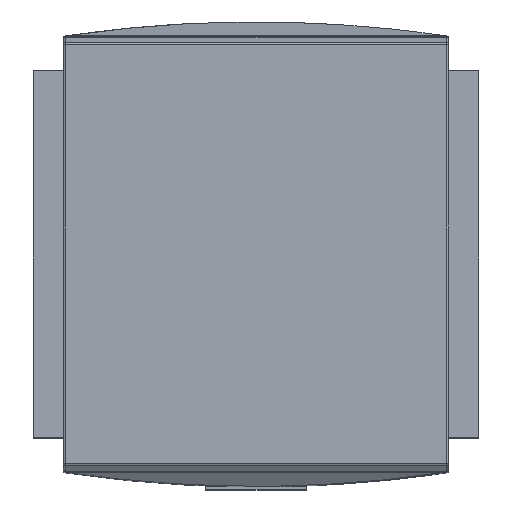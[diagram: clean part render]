
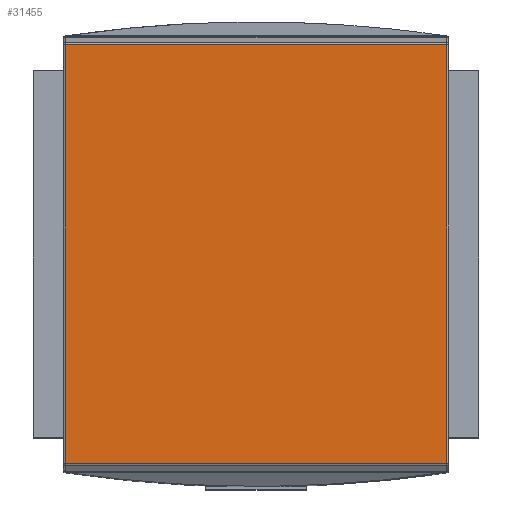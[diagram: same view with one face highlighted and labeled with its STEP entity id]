
A CAD part, top view. The second image highlights one B-rep face of the part: STEP entity #31455.
In plain terms, the highlighted planar face has unit normal (0, 0, 1) as drawn and (0, 0, -1) by its records, which use the part's own axes.
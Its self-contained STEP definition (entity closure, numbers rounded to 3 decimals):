
#31260=CARTESIAN_POINT('',(-24.458,-22.25,-1.5));
#31261=VERTEX_POINT('',#31260);
#31269=CARTESIAN_POINT('',(24.431,-22.25,-1.5));
#31270=VERTEX_POINT('',#31269);
#31271=CARTESIAN_POINT('',(-24.458,-22.25,-1.5));
#31272=DIRECTION('',(1.0,0.0,0.0));
#31273=VECTOR('',#31272,48.889);
#31274=LINE('',#31271,#31273);
#31275=EDGE_CURVE('',#31261,#31270,#31274,.T.);
#31413=CARTESIAN_POINT('',(24.431,22.25,-1.5));
#31414=VERTEX_POINT('',#31413);
#31415=CARTESIAN_POINT('',(24.431,-22.25,-1.5));
#31416=DIRECTION('',(0.0,1.0,0.0));
#31417=VECTOR('',#31416,44.5);
#31418=LINE('',#31415,#31417);
#31419=EDGE_CURVE('',#31270,#31414,#31418,.T.);
#31432=CARTESIAN_POINT('',(0.,0.,-1.5));
#31433=DIRECTION('',(0.0,0.0,1.0));
#31434=DIRECTION('',(1.0,0.0,0.0));
#31435=AXIS2_PLACEMENT_3D('',#31432,#31433,#31434);
#31436=PLANE('',#31435);
#31437=ORIENTED_EDGE('',*,*,#31275,.F.);
#31438=CARTESIAN_POINT('',(-24.458,22.25,-1.5));
#31439=VERTEX_POINT('',#31438);
#31440=CARTESIAN_POINT('',(-24.458,22.25,-1.5));
#31441=DIRECTION('',(0.0,-1.0,0.0));
#31442=VECTOR('',#31441,44.5);
#31443=LINE('',#31440,#31442);
#31444=EDGE_CURVE('',#31439,#31261,#31443,.T.);
#31445=ORIENTED_EDGE('',*,*,#31444,.F.);
#31446=CARTESIAN_POINT('',(24.431,22.25,-1.5));
#31447=DIRECTION('',(-1.0,0.0,0.0));
#31448=VECTOR('',#31447,48.889);
#31449=LINE('',#31446,#31448);
#31450=EDGE_CURVE('',#31414,#31439,#31449,.T.);
#31451=ORIENTED_EDGE('',*,*,#31450,.F.);
#31452=ORIENTED_EDGE('',*,*,#31419,.F.);
#31453=EDGE_LOOP('',(#31437,#31445,#31451,#31452));
#31454=FACE_OUTER_BOUND('',#31453,.T.);
#31455=ADVANCED_FACE('',(#31454),#31436,.F.);
